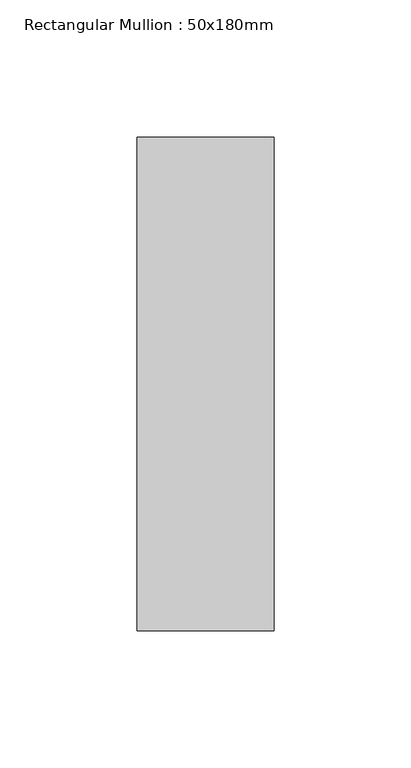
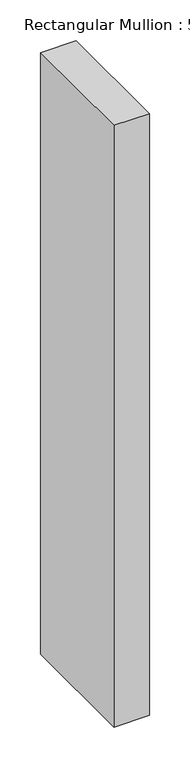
"""IFC4 building model written with IfcOpenShell, lengths in millimetres: member geometry, Rectangular Mullion : 50x180mm."""

from ifc_helpers import new_model, si_unit, frame, origin, place, context, project, spatial, polyline, outline, extrude, source, transform, mapped, element, save


def rectangular_mullion_50x180mm_3158579c(model_context):
    return source(origin(), model_context, "Body", "SweptSolid", [
        extrude(outline(polyline([(25.0, 90.0), (25.0, -90.0), (-25.0, -90.0), (-25.0, 90.0), (25.0, 90.0)])), frame((0.0, 0.0, -900.0), z_axis=(0.0, 0.0, 1.0), x_axis=(1.0, 0.0, 0.0)), (0.0, 0.0, 1.0), 900.0),
    ])


if __name__ == "__main__":
    model = new_model("IFC4")
    model_context = context("Model", 3, world=origin())
    ifc_project = project(units=[si_unit("LENGTHUNIT", "METRE", prefix="MILLI")], contexts=[model_context])
    site = spatial("IfcSite", under=ifc_project)
    building = spatial("IfcBuilding", under=site)
    placement = place(None, origin())
    rectangular_mullion_50x180mm_shape = rectangular_mullion_50x180mm_3158579c(model_context)
    element("IfcMember", 1, ObjectType="Rectangular Mullion : 50x180mm", at=placement, inside=building, context=model_context, shape_type="MappedRepresentation", body=[
        mapped(rectangular_mullion_50x180mm_shape, transform((0.0, 0.0, 0.0), x_axis=(1.0, 0.0, 0.0), y_axis=(0.0, 1.0, 0.0), z_axis=(0.0, 0.0, 1.0))),
    ])
    save(model, "model.ifc")
